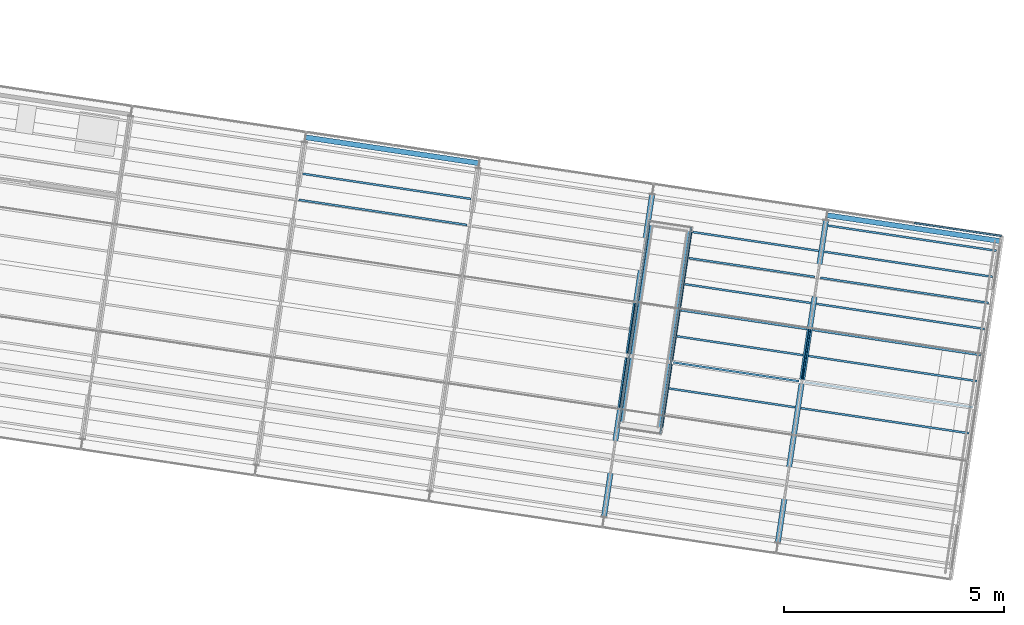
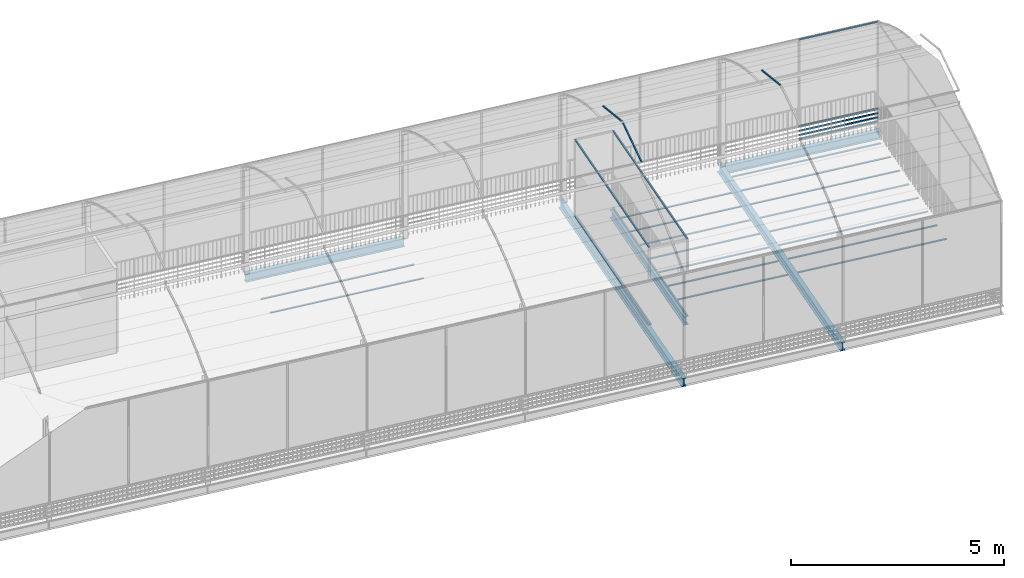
# One storey, part 13 of 34: 23 beams, 13 members, 1 element without a shape of its own.
"""IFC4 building model written with IfcOpenShell, lengths in metres."""

import ifcopenshell
import ifcopenshell.guid

model = None  # the IFC model being written
_history = None  # IfcOwnerHistory: only IFC2X3 demands one
_inside = {}  # id of a spatial element -> (the spatial element, [elements in it])
_under = {}  # id of a project, library or spatial element -> (it, [spatial elements below it])
_declared = {}  # id of a project -> (the project, [libraries it declares])
_typed = {}  # id of a type object -> (the type object, [elements of that type])
_made_of = {}  # id of a material, layer set ... -> (it, [elements and type objects made of it])


def new_model(schema):
    """Start an empty IFC model of exactly this schema.

    Asked for "IFC4X3", IfcOpenShell would pick the latest addendum, in which some entities
    have other attributes; the version numbers below select the first issue.
    IFC2X3 requires an IfcOwnerHistory on every rooted entity: one is made here for all.
    """
    global model, _history
    if schema == "IFC4X3":
        model = ifcopenshell.file(schema_version=(4, 3, 0, 0))
    else:
        model = ifcopenshell.file(schema=schema)
    _inside.clear()
    _under.clear()
    _declared.clear()
    _typed.clear()
    _made_of.clear()
    _history = None
    if model.schema == "IFC2X3":
        org = make("IfcOrganization", Name="unknown")
        user = make(
            "IfcPersonAndOrganization",
            ThePerson=make("IfcPerson", FamilyName="unknown"),
            TheOrganization=org,
        )
        app = make(
            "IfcApplication",
            ApplicationDeveloper=org,
            Version="unknown",
            ApplicationFullName="unknown",
            ApplicationIdentifier="unknown",
        )
        _history = make(
            "IfcOwnerHistory",
            OwningUser=user,
            OwningApplication=app,
            ChangeAction="ADDED",
            CreationDate=0,
        )
    return model


def make(cls, **values):
    """One entity of the class cls with the attributes given. An attribute that is None is left unset."""
    return model.create_entity(
        cls, **{name: value for name, value in values.items() if value is not None}
    )


def rooted(cls, **values):
    """An entity with a GlobalId (a new one), such as an element, a storey or a relation."""
    return make(cls, GlobalId=ifcopenshell.guid.new(), OwnerHistory=_history, **values)


def si_unit(unit_type, name, prefix=None):
    """IfcSIUnit, for example si_unit("LENGTHUNIT", "METRE", prefix="MILLI")."""
    return make("IfcSIUnit", UnitType=unit_type, Prefix=prefix, Name=name)


def assignment(units):
    """IfcUnitAssignment: the units of a project."""
    return None if units is None else make("IfcUnitAssignment", Units=units)


def point(xyz):
    """IfcCartesianPoint."""
    return None if xyz is None else make("IfcCartesianPoint", Coordinates=xyz)


def direction(xyz):
    """IfcDirection."""
    return None if xyz is None else make("IfcDirection", DirectionRatios=xyz)


def frame(location, z_axis=None, x_axis=None):
    """IfcAxis2Placement3D, a coordinate frame: its origin and axes. An axis left out is left unset."""
    return make(
        "IfcAxis2Placement3D",
        Location=point(location),
        Axis=direction(z_axis),
        RefDirection=direction(x_axis),
    )


def origin_with_axes():
    """The frame at (0, 0, 0) with the z axis (0, 0, 1) and the x axis (1, 0, 0) written out."""
    return frame((0.0, 0.0, 0.0), z_axis=(0.0, 0.0, 1.0), x_axis=(1.0, 0.0, 0.0))


def place(relative_to, where):
    """IfcLocalPlacement: puts the frame where relative to a parent placement (None: the world)."""
    return make(
        "IfcLocalPlacement", PlacementRelTo=relative_to, RelativePlacement=where
    )


def context(
    kind, dimensions, precision=None, world=None, true_north=None, identifier=None
):
    """IfcGeometricRepresentationContext, for example the 3D "Model" context."""
    return make(
        "IfcGeometricRepresentationContext",
        ContextIdentifier=identifier,
        ContextType=kind,
        CoordinateSpaceDimension=dimensions,
        Precision=precision,
        WorldCoordinateSystem=world,
        TrueNorth=true_north,
    )


def subcontext(parent, identifier, kind, view, scale=None):
    """IfcGeometricRepresentationSubContext, for example "Body" below "Model"."""
    return make(
        "IfcGeometricRepresentationSubContext",
        ContextIdentifier=identifier,
        ContextType=kind,
        ParentContext=parent,
        TargetScale=scale,
        TargetView=view,
    )


def project(units=None, contexts=None):
    """IfcProject with its units and contexts."""
    return rooted(
        "IfcProject",
        Name="project",
        RepresentationContexts=contexts,
        UnitsInContext=assignment(units),
    )


def spatial(cls, under=None, at=None, **own):
    """A site, building, storey or space (cls), placed at a placement, below another one or the project."""
    s = rooted(cls, ObjectPlacement=at, **own)
    if under is not None:
        _under.setdefault(under.id(), (under, []))[1].append(s)
    return s


def polyline(points):
    """IfcPolyline through the points."""
    return make("IfcPolyline", Points=[point(p) for p in points])


def profile(cls, at=None, kind="AREA", **sizes):
    """A parametric profile (cls). Its sizes go by their IFC names, for example OverallWidth=200.0."""
    return make(cls, ProfileType=kind, Position=at, **sizes)


def rectangle(**sizes):
    """IfcRectangleProfileDef."""
    return profile("IfcRectangleProfileDef", **sizes)


def i_section(**sizes):
    """IfcIShapeProfileDef."""
    return profile("IfcIShapeProfileDef", **sizes)


def outline(outer, holes=None, kind="AREA"):
    """IfcArbitraryClosedProfileDef: a profile drawn as a closed curve; with holes, ...WithVoids."""
    if holes is None:
        return make("IfcArbitraryClosedProfileDef", ProfileType=kind, OuterCurve=outer)
    return make(
        "IfcArbitraryProfileDefWithVoids",
        ProfileType=kind,
        OuterCurve=outer,
        InnerCurves=holes,
    )


def extrude(swept, where, along, depth):
    """IfcExtrudedAreaSolid: the profile swept, set in the frame where, extruded along a direction by depth."""
    return make(
        "IfcExtrudedAreaSolid",
        SweptArea=swept,
        Position=where,
        ExtrudedDirection=direction(along),
        Depth=depth,
    )


def shape(context_of_items, identifier, shape_type, items):
    """IfcShapeRepresentation: the items that make up one representation, for example the "Body"."""
    return make(
        "IfcShapeRepresentation",
        ContextOfItems=context_of_items,
        RepresentationIdentifier=identifier,
        RepresentationType=shape_type,
        Items=items,
    )


def material(Name=None, Category=None):
    """IfcMaterial."""
    return make("IfcMaterial", Name=Name, Category=Category)


def material_profile(
    of_material, cross_section, Name=None, Category=None, Priority=None
):
    """IfcMaterialProfile: a cross section and its material."""
    return make(
        "IfcMaterialProfile",
        Name=Name,
        Material=of_material,
        Profile=cross_section,
        Priority=Priority,
        Category=Category,
    )


def profile_set(profiles, Name=None, composite=None):
    """IfcMaterialProfileSet."""
    return make(
        "IfcMaterialProfileSet",
        Name=Name,
        MaterialProfiles=profiles,
        CompositeProfile=composite,
    )


def profile_usage(for_profile_set, cardinal=None, extent=None):
    """IfcMaterialProfileSetUsage: how a profile set lies along its element."""
    return make(
        "IfcMaterialProfileSetUsage",
        ForProfileSet=for_profile_set,
        CardinalPoint=cardinal,
        ReferenceExtent=extent,
    )


def made_of(thing, what):
    """Note that an element or type object is made of a material, layer set ...; save() writes the relation."""
    if what is not None:
        _made_of.setdefault(what.id(), (what, []))[1].append(thing)
    return thing


def type_object(cls, material=None, **own):
    """A type object (cls), such as IfcWallType, which elements share."""
    return made_of(rooted(cls, **own), material)


def element(
    cls,
    number,
    at=None,
    inside=None,
    cuts=None,
    type_object=None,
    material=None,
    context=None,
    identifier="Body",
    shape_type=None,
    held_by="IfcProductDefinitionShape",
    body=None,
    shapes=None,
    **own,
):
    """One element of the class cls, such as IfcWall. Its Tag is "e" and its number.

    at: its placement. inside: the storey or other place that contains it. cuts: it is an
    opening in that element (IfcRelVoidsElement). A single representation is given by context,
    identifier, shape_type and body (its items); several are given by shapes. held_by: the class
    of the entity that holds the representations. save() writes the other relations.
    """
    e = rooted(cls, Tag="e%d" % number, ObjectPlacement=at, **own)
    if body is not None:
        shapes = [shape(context, identifier, shape_type, body)]
    if shapes is not None:
        e.Representation = make(held_by, Representations=shapes)
    if inside is not None:
        _inside.setdefault(inside.id(), (inside, []))[1].append(e)
    if cuts is not None:
        rooted(
            "IfcRelVoidsElement", RelatingBuildingElement=cuts, RelatedOpeningElement=e
        )
    if type_object is not None:
        _typed.setdefault(type_object.id(), (type_object, []))[1].append(e)
    return made_of(e, material)


def aggregate(whole, parts):
    """IfcRelAggregates: a whole, such as a stair, and the parts it consists of."""
    return rooted("IfcRelAggregates", RelatingObject=whole, RelatedObjects=parts)


def save(model, path):
    """Write the relations noted so far, then the file.

    IfcRelAggregates (storeys below a building ...), IfcRelContainedInSpatialStructure (elements
    in a storey), IfcRelDefinesByType, IfcRelAssociatesMaterial and IfcRelDeclares: one each for
    every whole, place, type object, material and project.
    """
    for whole, parts in _under.values():
        aggregate(whole, parts)
    for where, things in _inside.values():
        rooted(
            "IfcRelContainedInSpatialStructure",
            RelatedElements=things,
            RelatingStructure=where,
        )
    for kind, things in _typed.values():
        rooted("IfcRelDefinesByType", RelatedObjects=things, RelatingType=kind)
    for what, things in _made_of.values():
        rooted("IfcRelAssociatesMaterial", RelatedObjects=things, RelatingMaterial=what)
    for by, libraries in _declared.values():
        rooted("IfcRelDeclares", RelatingContext=by, RelatedDefinitions=libraries)
    model.write(path)


model = new_model("IFC4")

# Units and contexts
model_context = context("Model", 3, precision=1e-05, world=origin_with_axes(), true_north=direction((0.0, 1.0)))
body_context = subcontext(model_context, "Body", "Model", "MODEL_VIEW")
ifc_project = project(units=[si_unit("VOLUMEUNIT", "CUBIC_METRE"), si_unit("LENGTHUNIT", "METRE"), si_unit("AREAUNIT", "SQUARE_METRE")], contexts=[model_context])

# Site, building, storey
site_placement = place(None, origin_with_axes())
site = spatial("IfcSite", under=ifc_project, at=site_placement, Name="Lares · Rua das Mercês · artigo 4771")
building_placement = place(site_placement, frame((15.0, 9.7, 15.8), z_axis=(0.0, 0.0, 1.0), x_axis=(0.989015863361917, -0.147809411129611, 0.0)))
building = spatial("IfcBuilding", under=site, at=building_placement, Name="Casa Sobreposta")
storey_placement = place(building_placement, frame((0.0, 0.0, 3.24), z_axis=(0.0, 0.0, 1.0), x_axis=(1.0, 0.0, 0.0)))
storey = spatial("IfcBuildingStorey", under=building, at=storey_placement, Name="01 · Jardim de inverno", Elevation=19.04)

# Beams
ifc_material_1 = material(Name="Aço pintado / Stahl lackiert", Category="steel")
ifc_material_profile_1 = material_profile(ifc_material_1, i_section(OverallWidth=0.12, OverallDepth=0.24, WebThickness=0.0062, FlangeThickness=0.0098))
ifc_profile_set_1 = profile_set([ifc_material_profile_1], Name="IPE240")
ifc_profile_usage_1 = profile_usage(ifc_profile_set_1)
beam_type = type_object("IfcBeamType", Name="IPE240 / steel", PredefinedType="NOTDEFINED", material=ifc_profile_set_1)
beam_1_placement = place(storey_placement, frame((16.0, 6.28, -0.152), z_axis=(1.0, 0.0, 0.0), x_axis=(0.0, -1.0, 0.0)))
element("IfcBeam", 1, at=beam_1_placement, inside=storey, type_object=beam_type, material=ifc_profile_usage_1, Name="Viga longitudinal 16 / 6.28", context=body_context, shape_type="SweptSolid", body=[
    extrude(i_section(OverallWidth=0.12, OverallDepth=0.24, WebThickness=0.0062, FlangeThickness=0.0098), origin_with_axes(), (0.0, 0.0, 1.0), 4.0),
])
ifc_profile_usage_2 = profile_usage(ifc_profile_set_1)
beam_2_placement = place(storey_placement, frame((28.0, 6.28, -0.152), z_axis=(1.0, 0.0, 0.0), x_axis=(0.0, -1.0, 0.0)))
element("IfcBeam", 2, at=beam_2_placement, inside=storey, type_object=beam_type, material=ifc_profile_usage_2, Name="Viga longitudinal 28 / 6.28", context=body_context, shape_type="SweptSolid", body=[
    extrude(i_section(OverallWidth=0.12, OverallDepth=0.24, WebThickness=0.0062, FlangeThickness=0.0098), origin_with_axes(), (0.0, 0.0, 1.0), 4.0),
])
ifc_profile_usage_3 = profile_usage(ifc_profile_set_1)
beam_3_placement = place(storey_placement, frame((24.0, -1.5, -0.152), z_axis=(0.0, 1.0, 0.0), x_axis=(1.0, 0.0, 0.0)))
element("IfcBeam", 3, at=beam_3_placement, inside=storey, type_object=beam_type, material=ifc_profile_usage_3, Name="Viga transversal eixo 24", context=body_context, shape_type="SweptSolid", body=[
    extrude(i_section(OverallWidth=0.12, OverallDepth=0.24, WebThickness=0.0062, FlangeThickness=0.0098), origin_with_axes(), (0.0, 0.0, 1.0), 7.9),
])
ifc_profile_usage_4 = profile_usage(ifc_profile_set_1)
beam_4_placement = place(storey_placement, frame((28.0, -1.5, -0.152), z_axis=(0.0, 1.0, 0.0), x_axis=(1.0, 0.0, 0.0)))
element("IfcBeam", 4, at=beam_4_placement, inside=storey, type_object=beam_type, material=ifc_profile_usage_4, Name="Viga transversal eixo 28", context=body_context, shape_type="SweptSolid", body=[
    extrude(i_section(OverallWidth=0.12, OverallDepth=0.24, WebThickness=0.0062, FlangeThickness=0.0098), origin_with_axes(), (0.0, 0.0, 1.0), 7.9),
])
ifc_profile_usage_5 = profile_usage(ifc_profile_set_1)
beam_5_placement = place(storey_placement, frame((24.05, 0.8275, -0.152), z_axis=(0.0, 1.0, 0.0), x_axis=(1.0, 0.0, 0.0)))
element("IfcBeam", 5, at=beam_5_placement, inside=storey, type_object=beam_type, material=ifc_profile_usage_5, Name="Longarina do vão 2", context=body_context, shape_type="SweptSolid", body=[
    extrude(i_section(OverallWidth=0.12, OverallDepth=0.24, WebThickness=0.0062, FlangeThickness=0.0098), origin_with_axes(), (0.0, 0.0, 1.0), 4.745),
])
ifc_profile_usage_6 = profile_usage(ifc_profile_set_1)
beam_6_placement = place(storey_placement, frame((24.97, 0.8275, -0.152), z_axis=(0.0, 1.0, 0.0), x_axis=(1.0, 0.0, 0.0)))
element("IfcBeam", 6, at=beam_6_placement, inside=storey, type_object=beam_type, material=ifc_profile_usage_6, Name="Longarina do vão 2", context=body_context, shape_type="SweptSolid", body=[
    extrude(i_section(OverallWidth=0.12, OverallDepth=0.24, WebThickness=0.0062, FlangeThickness=0.0098), origin_with_axes(), (0.0, 0.0, 1.0), 4.745),
])

# Members
ifc_material_profile_2 = material_profile(ifc_material_1, rectangle(XDim=0.035, YDim=0.035))
ifc_profile_set_2 = profile_set([ifc_material_profile_2], Name="R0.035")
ifc_profile_usage_7 = profile_usage(ifc_profile_set_2)
member_type = type_object("IfcMemberType", Name="R0.035 / steel", PredefinedType="NOTDEFINED", material=ifc_profile_set_2)
member_1_placement = place(storey_placement, frame((30.0, 6.4, 0.5), z_axis=(1.0, 0.0, 0.0), x_axis=(0.0, -1.0, 0.0)))
element("IfcMember", 7, at=member_1_placement, inside=storey, type_object=member_type, material=ifc_profile_usage_7, Name="Estufa norte 16 · travessa", context=body_context, shape_type="SweptSolid", body=[
    extrude(rectangle(XDim=0.035, YDim=0.035), origin_with_axes(), (0.0, 0.0, 1.0), 2.0),
])
ifc_profile_usage_8 = profile_usage(ifc_profile_set_2)
member_2_placement = place(storey_placement, frame((30.0, 6.4, 2.98), z_axis=(1.0, 0.0, 0.0), x_axis=(0.0, -1.0, 0.0)))
element("IfcMember", 8, at=member_2_placement, inside=storey, type_object=member_type, material=ifc_profile_usage_8, Name="Estufa norte 16 · travessa", context=body_context, shape_type="SweptSolid", body=[
    extrude(rectangle(XDim=0.035, YDim=0.035), origin_with_axes(), (0.0, 0.0, 1.0), 2.0),
])
ifc_profile_usage_9 = profile_usage(ifc_profile_set_2)
member_3_placement = place(storey_placement, frame((30.0, 6.4, 0.12), z_axis=(1.0, 0.0, 0.0), x_axis=(0.0, -1.0, 0.0)))
element("IfcMember", 9, at=member_3_placement, inside=storey, type_object=member_type, material=ifc_profile_usage_9, Name="Entrada de ar norte 16", context=body_context, shape_type="SweptSolid", body=[
    extrude(rectangle(XDim=0.035, YDim=0.035), origin_with_axes(), (0.0, 0.0, 1.0), 2.0),
])
ifc_profile_usage_10 = profile_usage(ifc_profile_set_2)
member_4_placement = place(storey_placement, frame((30.0, 6.4, 0.24), z_axis=(1.0, 0.0, 0.0), x_axis=(0.0, -1.0, 0.0)))
element("IfcMember", 10, at=member_4_placement, inside=storey, type_object=member_type, material=ifc_profile_usage_10, Name="Entrada de ar norte 16", context=body_context, shape_type="SweptSolid", body=[
    extrude(rectangle(XDim=0.035, YDim=0.035), origin_with_axes(), (0.0, 0.0, 1.0), 2.0),
])
ifc_profile_usage_11 = profile_usage(ifc_profile_set_2)
member_5_placement = place(storey_placement, frame((30.0, 6.4, 0.36), z_axis=(1.0, 0.0, 0.0), x_axis=(0.0, -1.0, 0.0)))
element("IfcMember", 11, at=member_5_placement, inside=storey, type_object=member_type, material=ifc_profile_usage_11, Name="Entrada de ar norte 16", context=body_context, shape_type="SweptSolid", body=[
    extrude(rectangle(XDim=0.035, YDim=0.035), origin_with_axes(), (0.0, 0.0, 1.0), 2.0),
])
ifc_profile_usage_12 = profile_usage(ifc_profile_set_2)
member_6_placement = place(storey_placement, frame((30.0, 6.4, 0.48), z_axis=(1.0, 0.0, 0.0), x_axis=(0.0, -1.0, 0.0)))
element("IfcMember", 12, at=member_6_placement, inside=storey, type_object=member_type, material=ifc_profile_usage_12, Name="Entrada de ar norte 16", context=body_context, shape_type="SweptSolid", body=[
    extrude(rectangle(XDim=0.035, YDim=0.035), origin_with_axes(), (0.0, 0.0, 1.0), 2.0),
])

# Roof, members
ifc_material_2 = material(Name="Vidro / Normalglas", Category="glass")
roof_placement = place(storey_placement, frame((0.0, 0.0, -3.24), z_axis=(0.0, 0.0, 1.0), x_axis=(1.0, 0.0, 0.0)))
roof = element("IfcRoof", 13, at=roof_placement, inside=storey, material=ifc_material_2, Name="Cobertura translúcida da estufa", PredefinedType="BARREL_ROOF")
ifc_profile_usage_13 = profile_usage(ifc_profile_set_2)
member_7_placement = place(roof_placement, frame((24.0, 1.22042020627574, 7.62067689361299), z_axis=(0.0, 0.960073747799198, 0.279747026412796), x_axis=(1.0, 0.0, 0.0)))
member_7 = element("IfcMember", 14, at=member_7_placement, type_object=member_type, material=ifc_profile_usage_13, Name="Arco estufa 24/7", context=body_context, shape_type="SweptSolid", body=[
    extrude(rectangle(XDim=0.035, YDim=0.035), origin_with_axes(), (0.0, 0.0, 1.0), 1.23148937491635),
])
ifc_profile_usage_14 = profile_usage(ifc_profile_set_2)
member_8_placement = place(roof_placement, frame((24.0, 2.49770027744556, 7.96518238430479), z_axis=(0.0, 0.96007374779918, -0.279747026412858), x_axis=(1.0, 0.0, 0.0)))
member_8 = element("IfcMember", 15, at=member_8_placement, type_object=member_type, material=ifc_profile_usage_14, Name="Arco estufa 24/9", context=body_context, shape_type="SweptSolid", body=[
    extrude(rectangle(XDim=0.035, YDim=0.035), origin_with_axes(), (0.0, 0.0, 1.0), 1.23148937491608),
])
ifc_profile_usage_15 = profile_usage(ifc_profile_set_2)
member_9_placement = place(roof_placement, frame((28.0, 2.49770027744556, 7.96518238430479), z_axis=(0.0, 0.96007374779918, -0.279747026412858), x_axis=(1.0, 0.0, 0.0)))
member_9 = element("IfcMember", 16, at=member_9_placement, type_object=member_type, material=ifc_profile_usage_15, Name="Arco estufa 28/9", context=body_context, shape_type="SweptSolid", body=[
    extrude(rectangle(XDim=0.035, YDim=0.035), origin_with_axes(), (0.0, 0.0, 1.0), 1.23148937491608),
])
aggregate(roof, [member_7, member_8, member_9])

# Members
ifc_profile_usage_16 = profile_usage(ifc_profile_set_2)
member_10_placement = place(storey_placement, frame((24.03, 0.8, 0.0), z_axis=(0.0, 1.0, 0.0), x_axis=(1.0, 0.0, 0.0)))
element("IfcMember", 17, at=member_10_placement, inside=storey, type_object=member_type, material=ifc_profile_usage_16, Name="Caixa térmica 2 · west · travessa", context=body_context, shape_type="SweptSolid", body=[
    extrude(rectangle(XDim=0.035, YDim=0.035), origin_with_axes(), (0.0, 0.0, 1.0), 4.75),
])
ifc_profile_usage_17 = profile_usage(ifc_profile_set_2)
member_11_placement = place(storey_placement, frame((24.03, 0.8, 2.2), z_axis=(0.0, 1.0, 0.0), x_axis=(1.0, 0.0, 0.0)))
element("IfcMember", 18, at=member_11_placement, inside=storey, type_object=member_type, material=ifc_profile_usage_17, Name="Caixa térmica 2 · west · travessa", context=body_context, shape_type="SweptSolid", body=[
    extrude(rectangle(XDim=0.035, YDim=0.035), origin_with_axes(), (0.0, 0.0, 1.0), 4.75),
])
ifc_profile_usage_18 = profile_usage(ifc_profile_set_2)
member_12_placement = place(storey_placement, frame((24.99, 0.8, 0.0), z_axis=(0.0, 1.0, 0.0), x_axis=(1.0, 0.0, 0.0)))
element("IfcMember", 19, at=member_12_placement, inside=storey, type_object=member_type, material=ifc_profile_usage_18, Name="Caixa térmica 2 · east · travessa", context=body_context, shape_type="SweptSolid", body=[
    extrude(rectangle(XDim=0.035, YDim=0.035), origin_with_axes(), (0.0, 0.0, 1.0), 4.75),
])
ifc_profile_usage_19 = profile_usage(ifc_profile_set_2)
member_13_placement = place(storey_placement, frame((24.99, 0.8, 2.2), z_axis=(0.0, 1.0, 0.0), x_axis=(1.0, 0.0, 0.0)))
element("IfcMember", 20, at=member_13_placement, inside=storey, type_object=member_type, material=ifc_profile_usage_19, Name="Caixa térmica 2 · east · travessa", context=body_context, shape_type="SweptSolid", body=[
    extrude(rectangle(XDim=0.035, YDim=0.035), origin_with_axes(), (0.0, 0.0, 1.0), 4.75),
])

# Beams
ifc_material_3 = material(Name="Madeira / Bauholz", Category="wood")
ifc_material_profile_3 = material_profile(ifc_material_3, outline(polyline([(0.022225, -0.12), (0.022225, -0.092), (-0.022225, -0.092), (-0.022225, -0.12), (0.022225, -0.12)])))
ifc_material_4 = material(Name="OSB", Category="wood")
ifc_material_profile_4 = material_profile(ifc_material_4, outline(polyline([(0.0047625, -0.092), (0.0047625, 0.092), (-0.0047625, 0.092), (-0.0047625, -0.092), (0.0047625, -0.092)])))
ifc_material_profile_5 = material_profile(ifc_material_3, outline(polyline([(0.022225, 0.092), (0.022225, 0.12), (-0.022225, 0.12), (-0.022225, 0.092), (0.022225, 0.092)])))
ifc_profile_set_3 = profile_set([ifc_material_profile_3, ifc_material_profile_4, ifc_material_profile_5], Name="TJI240 · madeira / OSB")
ifc_profile_usage_20 = profile_usage(ifc_profile_set_3)
beam_7_placement = place(storey_placement, frame((25.04, 1.85, -0.152), z_axis=(1.0, 0.0, 0.0), x_axis=(0.0, 1.0, 0.0)))
element("IfcBeam", 21, at=beam_7_placement, inside=storey, material=ifc_profile_usage_20, Name="TJI240 · 25.040 / 1.85", context=body_context, shape_type="SweptSolid", body=[
    extrude(outline(polyline([(0.022225, -0.12), (0.022225, -0.092), (-0.022225, -0.092), (-0.022225, -0.12), (0.022225, -0.12)])), origin_with_axes(), (0.0, 0.0, 1.0), 2.895),
    extrude(outline(polyline([(0.022225, -0.12), (0.022225, -0.092), (-0.022225, -0.092), (-0.022225, -0.12), (0.022225, -0.12)])), origin_with_axes(), (0.0, 0.0, 1.0), 2.895),
    extrude(outline(polyline([(0.022225, -0.12), (0.022225, -0.092), (-0.022225, -0.092), (-0.022225, -0.12), (0.022225, -0.12)])), origin_with_axes(), (0.0, 0.0, 1.0), 2.895),
])
ifc_material_profile_6 = material_profile(ifc_material_3, outline(polyline([(0.022225, -0.12), (0.022225, -0.092), (-0.022225, -0.092), (-0.022225, -0.12), (0.022225, -0.12)])))
ifc_material_profile_7 = material_profile(ifc_material_4, outline(polyline([(0.0047625, -0.092), (0.0047625, 0.092), (-0.0047625, 0.092), (-0.0047625, -0.092), (0.0047625, -0.092)])))
ifc_material_profile_8 = material_profile(ifc_material_3, outline(polyline([(0.022225, 0.092), (0.022225, 0.12), (-0.022225, 0.12), (-0.022225, 0.092), (0.022225, 0.092)])))
ifc_profile_set_4 = profile_set([ifc_material_profile_6, ifc_material_profile_7, ifc_material_profile_8], Name="TJI240 · madeira / OSB")
ifc_profile_usage_21 = profile_usage(ifc_profile_set_4)
beam_8_placement = place(storey_placement, frame((28.065, 1.85, -0.152), z_axis=(1.0, 0.0, 0.0), x_axis=(0.0, 1.0, 0.0)))
element("IfcBeam", 22, at=beam_8_placement, inside=storey, material=ifc_profile_usage_21, Name="TJI240 · 28.065 / 1.85", context=body_context, shape_type="SweptSolid", body=[
    extrude(outline(polyline([(0.022225, -0.12), (0.022225, -0.092), (-0.022225, -0.092), (-0.022225, -0.12), (0.022225, -0.12)])), origin_with_axes(), (0.0, 0.0, 1.0), 3.87),
    extrude(outline(polyline([(0.022225, -0.12), (0.022225, -0.092), (-0.022225, -0.092), (-0.022225, -0.12), (0.022225, -0.12)])), origin_with_axes(), (0.0, 0.0, 1.0), 3.87),
    extrude(outline(polyline([(0.022225, -0.12), (0.022225, -0.092), (-0.022225, -0.092), (-0.022225, -0.12), (0.022225, -0.12)])), origin_with_axes(), (0.0, 0.0, 1.0), 3.87),
])
ifc_material_profile_9 = material_profile(ifc_material_3, outline(polyline([(0.022225, -0.12), (0.022225, -0.092), (-0.022225, -0.092), (-0.022225, -0.12), (0.022225, -0.12)])))
ifc_material_profile_10 = material_profile(ifc_material_4, outline(polyline([(0.0047625, -0.092), (0.0047625, 0.092), (-0.0047625, 0.092), (-0.0047625, -0.092), (0.0047625, -0.092)])))
ifc_material_profile_11 = material_profile(ifc_material_3, outline(polyline([(0.022225, 0.092), (0.022225, 0.12), (-0.022225, 0.12), (-0.022225, 0.092), (0.022225, 0.092)])))
ifc_profile_set_5 = profile_set([ifc_material_profile_9, ifc_material_profile_10, ifc_material_profile_11], Name="TJI240 · madeira / OSB")
ifc_profile_usage_22 = profile_usage(ifc_profile_set_5)
beam_9_placement = place(storey_placement, frame((25.04, 2.45, -0.152), z_axis=(1.0, 0.0, 0.0), x_axis=(0.0, 1.0, 0.0)))
element("IfcBeam", 23, at=beam_9_placement, inside=storey, material=ifc_profile_usage_22, Name="TJI240 · 25.040 / 2.45", context=body_context, shape_type="SweptSolid", body=[
    extrude(outline(polyline([(0.022225, -0.12), (0.022225, -0.092), (-0.022225, -0.092), (-0.022225, -0.12), (0.022225, -0.12)])), origin_with_axes(), (0.0, 0.0, 1.0), 2.895),
    extrude(outline(polyline([(0.022225, -0.12), (0.022225, -0.092), (-0.022225, -0.092), (-0.022225, -0.12), (0.022225, -0.12)])), origin_with_axes(), (0.0, 0.0, 1.0), 2.895),
    extrude(outline(polyline([(0.022225, -0.12), (0.022225, -0.092), (-0.022225, -0.092), (-0.022225, -0.12), (0.022225, -0.12)])), origin_with_axes(), (0.0, 0.0, 1.0), 2.895),
])
ifc_material_profile_12 = material_profile(ifc_material_3, outline(polyline([(0.022225, -0.12), (0.022225, -0.092), (-0.022225, -0.092), (-0.022225, -0.12), (0.022225, -0.12)])))
ifc_material_profile_13 = material_profile(ifc_material_4, outline(polyline([(0.0047625, -0.092), (0.0047625, 0.092), (-0.0047625, 0.092), (-0.0047625, -0.092), (0.0047625, -0.092)])))
ifc_material_profile_14 = material_profile(ifc_material_3, outline(polyline([(0.022225, 0.092), (0.022225, 0.12), (-0.022225, 0.12), (-0.022225, 0.092), (0.022225, 0.092)])))
ifc_profile_set_6 = profile_set([ifc_material_profile_12, ifc_material_profile_13, ifc_material_profile_14], Name="TJI240 · madeira / OSB")
ifc_profile_usage_23 = profile_usage(ifc_profile_set_6)
beam_10_placement = place(storey_placement, frame((28.065, 2.45, -0.152), z_axis=(1.0, 0.0, 0.0), x_axis=(0.0, 1.0, 0.0)))
element("IfcBeam", 24, at=beam_10_placement, inside=storey, material=ifc_profile_usage_23, Name="TJI240 · 28.065 / 2.45", context=body_context, shape_type="SweptSolid", body=[
    extrude(outline(polyline([(0.022225, -0.12), (0.022225, -0.092), (-0.022225, -0.092), (-0.022225, -0.12), (0.022225, -0.12)])), origin_with_axes(), (0.0, 0.0, 1.0), 3.87),
    extrude(outline(polyline([(0.022225, -0.12), (0.022225, -0.092), (-0.022225, -0.092), (-0.022225, -0.12), (0.022225, -0.12)])), origin_with_axes(), (0.0, 0.0, 1.0), 3.87),
    extrude(outline(polyline([(0.022225, -0.12), (0.022225, -0.092), (-0.022225, -0.092), (-0.022225, -0.12), (0.022225, -0.12)])), origin_with_axes(), (0.0, 0.0, 1.0), 3.87),
])
ifc_material_profile_15 = material_profile(ifc_material_3, outline(polyline([(0.022225, -0.12), (0.022225, -0.092), (-0.022225, -0.092), (-0.022225, -0.12), (0.022225, -0.12)])))
ifc_material_profile_16 = material_profile(ifc_material_4, outline(polyline([(0.0047625, -0.092), (0.0047625, 0.092), (-0.0047625, 0.092), (-0.0047625, -0.092), (0.0047625, -0.092)])))
ifc_material_profile_17 = material_profile(ifc_material_3, outline(polyline([(0.022225, 0.092), (0.022225, 0.12), (-0.022225, 0.12), (-0.022225, 0.092), (0.022225, 0.092)])))
ifc_profile_set_7 = profile_set([ifc_material_profile_15, ifc_material_profile_16, ifc_material_profile_17], Name="TJI240 · madeira / OSB")
ifc_profile_usage_24 = profile_usage(ifc_profile_set_7)
beam_11_placement = place(storey_placement, frame((25.04, 3.05, -0.152), z_axis=(1.0, 0.0, 0.0), x_axis=(0.0, 1.0, 0.0)))
element("IfcBeam", 25, at=beam_11_placement, inside=storey, material=ifc_profile_usage_24, Name="TJI240 · 25.040 / 3.05", context=body_context, shape_type="SweptSolid", body=[
    extrude(outline(polyline([(0.022225, -0.12), (0.022225, -0.092), (-0.022225, -0.092), (-0.022225, -0.12), (0.022225, -0.12)])), origin_with_axes(), (0.0, 0.0, 1.0), 2.895),
    extrude(outline(polyline([(0.022225, -0.12), (0.022225, -0.092), (-0.022225, -0.092), (-0.022225, -0.12), (0.022225, -0.12)])), origin_with_axes(), (0.0, 0.0, 1.0), 2.895),
    extrude(outline(polyline([(0.022225, -0.12), (0.022225, -0.092), (-0.022225, -0.092), (-0.022225, -0.12), (0.022225, -0.12)])), origin_with_axes(), (0.0, 0.0, 1.0), 2.895),
])
ifc_material_profile_18 = material_profile(ifc_material_3, outline(polyline([(0.022225, -0.12), (0.022225, -0.092), (-0.022225, -0.092), (-0.022225, -0.12), (0.022225, -0.12)])))
ifc_material_profile_19 = material_profile(ifc_material_4, outline(polyline([(0.0047625, -0.092), (0.0047625, 0.092), (-0.0047625, 0.092), (-0.0047625, -0.092), (0.0047625, -0.092)])))
ifc_material_profile_20 = material_profile(ifc_material_3, outline(polyline([(0.022225, 0.092), (0.022225, 0.12), (-0.022225, 0.12), (-0.022225, 0.092), (0.022225, 0.092)])))
ifc_profile_set_8 = profile_set([ifc_material_profile_18, ifc_material_profile_19, ifc_material_profile_20], Name="TJI240 · madeira / OSB")
ifc_profile_usage_25 = profile_usage(ifc_profile_set_8)
beam_12_placement = place(storey_placement, frame((28.065, 3.05, -0.152), z_axis=(1.0, 0.0, 0.0), x_axis=(0.0, 1.0, 0.0)))
element("IfcBeam", 26, at=beam_12_placement, inside=storey, material=ifc_profile_usage_25, Name="TJI240 · 28.065 / 3.05", context=body_context, shape_type="SweptSolid", body=[
    extrude(outline(polyline([(0.022225, -0.12), (0.022225, -0.092), (-0.022225, -0.092), (-0.022225, -0.12), (0.022225, -0.12)])), origin_with_axes(), (0.0, 0.0, 1.0), 3.87),
    extrude(outline(polyline([(0.022225, -0.12), (0.022225, -0.092), (-0.022225, -0.092), (-0.022225, -0.12), (0.022225, -0.12)])), origin_with_axes(), (0.0, 0.0, 1.0), 3.87),
    extrude(outline(polyline([(0.022225, -0.12), (0.022225, -0.092), (-0.022225, -0.092), (-0.022225, -0.12), (0.022225, -0.12)])), origin_with_axes(), (0.0, 0.0, 1.0), 3.87),
])
ifc_material_profile_21 = material_profile(ifc_material_3, outline(polyline([(0.022225, -0.12), (0.022225, -0.092), (-0.022225, -0.092), (-0.022225, -0.12), (0.022225, -0.12)])))
ifc_material_profile_22 = material_profile(ifc_material_4, outline(polyline([(0.0047625, -0.092), (0.0047625, 0.092), (-0.0047625, 0.092), (-0.0047625, -0.092), (0.0047625, -0.092)])))
ifc_material_profile_23 = material_profile(ifc_material_3, outline(polyline([(0.022225, 0.092), (0.022225, 0.12), (-0.022225, 0.12), (-0.022225, 0.092), (0.022225, 0.092)])))
ifc_profile_set_9 = profile_set([ifc_material_profile_21, ifc_material_profile_22, ifc_material_profile_23], Name="TJI240 · madeira / OSB")
ifc_profile_usage_26 = profile_usage(ifc_profile_set_9)
beam_13_placement = place(storey_placement, frame((25.04, 3.65, -0.152), z_axis=(1.0, 0.0, 0.0), x_axis=(0.0, 1.0, 0.0)))
element("IfcBeam", 27, at=beam_13_placement, inside=storey, material=ifc_profile_usage_26, Name="TJI240 · 25.040 / 3.65", context=body_context, shape_type="SweptSolid", body=[
    extrude(outline(polyline([(0.022225, -0.12), (0.022225, -0.092), (-0.022225, -0.092), (-0.022225, -0.12), (0.022225, -0.12)])), origin_with_axes(), (0.0, 0.0, 1.0), 2.895),
    extrude(outline(polyline([(0.022225, -0.12), (0.022225, -0.092), (-0.022225, -0.092), (-0.022225, -0.12), (0.022225, -0.12)])), origin_with_axes(), (0.0, 0.0, 1.0), 2.895),
    extrude(outline(polyline([(0.022225, -0.12), (0.022225, -0.092), (-0.022225, -0.092), (-0.022225, -0.12), (0.022225, -0.12)])), origin_with_axes(), (0.0, 0.0, 1.0), 2.895),
])
ifc_material_profile_24 = material_profile(ifc_material_3, outline(polyline([(0.022225, -0.12), (0.022225, -0.092), (-0.022225, -0.092), (-0.022225, -0.12), (0.022225, -0.12)])))
ifc_material_profile_25 = material_profile(ifc_material_4, outline(polyline([(0.0047625, -0.092), (0.0047625, 0.092), (-0.0047625, 0.092), (-0.0047625, -0.092), (0.0047625, -0.092)])))
ifc_material_profile_26 = material_profile(ifc_material_3, outline(polyline([(0.022225, 0.092), (0.022225, 0.12), (-0.022225, 0.12), (-0.022225, 0.092), (0.022225, 0.092)])))
ifc_profile_set_10 = profile_set([ifc_material_profile_24, ifc_material_profile_25, ifc_material_profile_26], Name="TJI240 · madeira / OSB")
ifc_profile_usage_27 = profile_usage(ifc_profile_set_10)
beam_14_placement = place(storey_placement, frame((28.065, 3.65, -0.152), z_axis=(1.0, 0.0, 0.0), x_axis=(0.0, 1.0, 0.0)))
element("IfcBeam", 28, at=beam_14_placement, inside=storey, material=ifc_profile_usage_27, Name="TJI240 · 28.065 / 3.65", context=body_context, shape_type="SweptSolid", body=[
    extrude(outline(polyline([(0.022225, -0.12), (0.022225, -0.092), (-0.022225, -0.092), (-0.022225, -0.12), (0.022225, -0.12)])), origin_with_axes(), (0.0, 0.0, 1.0), 3.87),
    extrude(outline(polyline([(0.022225, -0.12), (0.022225, -0.092), (-0.022225, -0.092), (-0.022225, -0.12), (0.022225, -0.12)])), origin_with_axes(), (0.0, 0.0, 1.0), 3.87),
    extrude(outline(polyline([(0.022225, -0.12), (0.022225, -0.092), (-0.022225, -0.092), (-0.022225, -0.12), (0.022225, -0.12)])), origin_with_axes(), (0.0, 0.0, 1.0), 3.87),
])
ifc_material_profile_27 = material_profile(ifc_material_3, outline(polyline([(0.022225, -0.12), (0.022225, -0.092), (-0.022225, -0.092), (-0.022225, -0.12), (0.022225, -0.12)])))
ifc_material_profile_28 = material_profile(ifc_material_4, outline(polyline([(0.0047625, -0.092), (0.0047625, 0.092), (-0.0047625, 0.092), (-0.0047625, -0.092), (0.0047625, -0.092)])))
ifc_material_profile_29 = material_profile(ifc_material_3, outline(polyline([(0.022225, 0.092), (0.022225, 0.12), (-0.022225, 0.12), (-0.022225, 0.092), (0.022225, 0.092)])))
ifc_profile_set_11 = profile_set([ifc_material_profile_27, ifc_material_profile_28, ifc_material_profile_29], Name="TJI240 · madeira / OSB")
ifc_profile_usage_28 = profile_usage(ifc_profile_set_11)
beam_15_placement = place(storey_placement, frame((25.04, 4.25, -0.152), z_axis=(1.0, 0.0, 0.0), x_axis=(0.0, 1.0, 0.0)))
element("IfcBeam", 29, at=beam_15_placement, inside=storey, material=ifc_profile_usage_28, Name="TJI240 · 25.040 / 4.25", context=body_context, shape_type="SweptSolid", body=[
    extrude(outline(polyline([(0.022225, -0.12), (0.022225, -0.092), (-0.022225, -0.092), (-0.022225, -0.12), (0.022225, -0.12)])), origin_with_axes(), (0.0, 0.0, 1.0), 2.895),
    extrude(outline(polyline([(0.022225, -0.12), (0.022225, -0.092), (-0.022225, -0.092), (-0.022225, -0.12), (0.022225, -0.12)])), origin_with_axes(), (0.0, 0.0, 1.0), 2.895),
    extrude(outline(polyline([(0.022225, -0.12), (0.022225, -0.092), (-0.022225, -0.092), (-0.022225, -0.12), (0.022225, -0.12)])), origin_with_axes(), (0.0, 0.0, 1.0), 2.895),
])
ifc_material_profile_30 = material_profile(ifc_material_3, outline(polyline([(0.022225, -0.12), (0.022225, -0.092), (-0.022225, -0.092), (-0.022225, -0.12), (0.022225, -0.12)])))
ifc_material_profile_31 = material_profile(ifc_material_4, outline(polyline([(0.0047625, -0.092), (0.0047625, 0.092), (-0.0047625, 0.092), (-0.0047625, -0.092), (0.0047625, -0.092)])))
ifc_material_profile_32 = material_profile(ifc_material_3, outline(polyline([(0.022225, 0.092), (0.022225, 0.12), (-0.022225, 0.12), (-0.022225, 0.092), (0.022225, 0.092)])))
ifc_profile_set_12 = profile_set([ifc_material_profile_30, ifc_material_profile_31, ifc_material_profile_32], Name="TJI240 · madeira / OSB")
ifc_profile_usage_29 = profile_usage(ifc_profile_set_12)
beam_16_placement = place(storey_placement, frame((28.065, 4.25, -0.152), z_axis=(1.0, 0.0, 0.0), x_axis=(0.0, 1.0, 0.0)))
element("IfcBeam", 30, at=beam_16_placement, inside=storey, material=ifc_profile_usage_29, Name="TJI240 · 28.065 / 4.25", context=body_context, shape_type="SweptSolid", body=[
    extrude(outline(polyline([(0.022225, -0.12), (0.022225, -0.092), (-0.022225, -0.092), (-0.022225, -0.12), (0.022225, -0.12)])), origin_with_axes(), (0.0, 0.0, 1.0), 3.87),
    extrude(outline(polyline([(0.022225, -0.12), (0.022225, -0.092), (-0.022225, -0.092), (-0.022225, -0.12), (0.022225, -0.12)])), origin_with_axes(), (0.0, 0.0, 1.0), 3.87),
    extrude(outline(polyline([(0.022225, -0.12), (0.022225, -0.092), (-0.022225, -0.092), (-0.022225, -0.12), (0.022225, -0.12)])), origin_with_axes(), (0.0, 0.0, 1.0), 3.87),
])
ifc_material_profile_33 = material_profile(ifc_material_3, outline(polyline([(0.022225, -0.12), (0.022225, -0.092), (-0.022225, -0.092), (-0.022225, -0.12), (0.022225, -0.12)])))
ifc_material_profile_34 = material_profile(ifc_material_4, outline(polyline([(0.0047625, -0.092), (0.0047625, 0.092), (-0.0047625, 0.092), (-0.0047625, -0.092), (0.0047625, -0.092)])))
ifc_material_profile_35 = material_profile(ifc_material_3, outline(polyline([(0.022225, 0.092), (0.022225, 0.12), (-0.022225, 0.12), (-0.022225, 0.092), (0.022225, 0.092)])))
ifc_profile_set_13 = profile_set([ifc_material_profile_33, ifc_material_profile_34, ifc_material_profile_35], Name="TJI240 · madeira / OSB")
ifc_profile_usage_30 = profile_usage(ifc_profile_set_13)
beam_17_placement = place(storey_placement, frame((16.065, 4.85, -0.152), z_axis=(1.0, 0.0, 0.0), x_axis=(0.0, 1.0, 0.0)))
element("IfcBeam", 31, at=beam_17_placement, inside=storey, material=ifc_profile_usage_30, Name="TJI240 · 16.065 / 4.85", context=body_context, shape_type="SweptSolid", body=[
    extrude(outline(polyline([(0.022225, -0.12), (0.022225, -0.092), (-0.022225, -0.092), (-0.022225, -0.12), (0.022225, -0.12)])), origin_with_axes(), (0.0, 0.0, 1.0), 3.87),
    extrude(outline(polyline([(0.022225, -0.12), (0.022225, -0.092), (-0.022225, -0.092), (-0.022225, -0.12), (0.022225, -0.12)])), origin_with_axes(), (0.0, 0.0, 1.0), 3.87),
    extrude(outline(polyline([(0.022225, -0.12), (0.022225, -0.092), (-0.022225, -0.092), (-0.022225, -0.12), (0.022225, -0.12)])), origin_with_axes(), (0.0, 0.0, 1.0), 3.87),
])
ifc_material_profile_36 = material_profile(ifc_material_3, outline(polyline([(0.022225, -0.12), (0.022225, -0.092), (-0.022225, -0.092), (-0.022225, -0.12), (0.022225, -0.12)])))
ifc_material_profile_37 = material_profile(ifc_material_4, outline(polyline([(0.0047625, -0.092), (0.0047625, 0.092), (-0.0047625, 0.092), (-0.0047625, -0.092), (0.0047625, -0.092)])))
ifc_material_profile_38 = material_profile(ifc_material_3, outline(polyline([(0.022225, 0.092), (0.022225, 0.12), (-0.022225, 0.12), (-0.022225, 0.092), (0.022225, 0.092)])))
ifc_profile_set_14 = profile_set([ifc_material_profile_36, ifc_material_profile_37, ifc_material_profile_38], Name="TJI240 · madeira / OSB")
ifc_profile_usage_31 = profile_usage(ifc_profile_set_14)
beam_18_placement = place(storey_placement, frame((25.04, 4.85, -0.152), z_axis=(1.0, 0.0, 0.0), x_axis=(0.0, 1.0, 0.0)))
element("IfcBeam", 32, at=beam_18_placement, inside=storey, material=ifc_profile_usage_31, Name="TJI240 · 25.040 / 4.85", context=body_context, shape_type="SweptSolid", body=[
    extrude(outline(polyline([(0.022225, -0.12), (0.022225, -0.092), (-0.022225, -0.092), (-0.022225, -0.12), (0.022225, -0.12)])), origin_with_axes(), (0.0, 0.0, 1.0), 2.895),
    extrude(outline(polyline([(0.022225, -0.12), (0.022225, -0.092), (-0.022225, -0.092), (-0.022225, -0.12), (0.022225, -0.12)])), origin_with_axes(), (0.0, 0.0, 1.0), 2.895),
    extrude(outline(polyline([(0.022225, -0.12), (0.022225, -0.092), (-0.022225, -0.092), (-0.022225, -0.12), (0.022225, -0.12)])), origin_with_axes(), (0.0, 0.0, 1.0), 2.895),
])
ifc_material_profile_39 = material_profile(ifc_material_3, outline(polyline([(0.022225, -0.12), (0.022225, -0.092), (-0.022225, -0.092), (-0.022225, -0.12), (0.022225, -0.12)])))
ifc_material_profile_40 = material_profile(ifc_material_4, outline(polyline([(0.0047625, -0.092), (0.0047625, 0.092), (-0.0047625, 0.092), (-0.0047625, -0.092), (0.0047625, -0.092)])))
ifc_material_profile_41 = material_profile(ifc_material_3, outline(polyline([(0.022225, 0.092), (0.022225, 0.12), (-0.022225, 0.12), (-0.022225, 0.092), (0.022225, 0.092)])))
ifc_profile_set_15 = profile_set([ifc_material_profile_39, ifc_material_profile_40, ifc_material_profile_41], Name="TJI240 · madeira / OSB")
ifc_profile_usage_32 = profile_usage(ifc_profile_set_15)
beam_19_placement = place(storey_placement, frame((28.065, 4.85, -0.152), z_axis=(1.0, 0.0, 0.0), x_axis=(0.0, 1.0, 0.0)))
element("IfcBeam", 33, at=beam_19_placement, inside=storey, material=ifc_profile_usage_32, Name="TJI240 · 28.065 / 4.85", context=body_context, shape_type="SweptSolid", body=[
    extrude(outline(polyline([(0.022225, -0.12), (0.022225, -0.092), (-0.022225, -0.092), (-0.022225, -0.12), (0.022225, -0.12)])), origin_with_axes(), (0.0, 0.0, 1.0), 3.87),
    extrude(outline(polyline([(0.022225, -0.12), (0.022225, -0.092), (-0.022225, -0.092), (-0.022225, -0.12), (0.022225, -0.12)])), origin_with_axes(), (0.0, 0.0, 1.0), 3.87),
    extrude(outline(polyline([(0.022225, -0.12), (0.022225, -0.092), (-0.022225, -0.092), (-0.022225, -0.12), (0.022225, -0.12)])), origin_with_axes(), (0.0, 0.0, 1.0), 3.87),
])
ifc_material_profile_42 = material_profile(ifc_material_3, outline(polyline([(0.022225, -0.12), (0.022225, -0.092), (-0.022225, -0.092), (-0.022225, -0.12), (0.022225, -0.12)])))
ifc_material_profile_43 = material_profile(ifc_material_4, outline(polyline([(0.0047625, -0.092), (0.0047625, 0.092), (-0.0047625, 0.092), (-0.0047625, -0.092), (0.0047625, -0.092)])))
ifc_material_profile_44 = material_profile(ifc_material_3, outline(polyline([(0.022225, 0.092), (0.022225, 0.12), (-0.022225, 0.12), (-0.022225, 0.092), (0.022225, 0.092)])))
ifc_profile_set_16 = profile_set([ifc_material_profile_42, ifc_material_profile_43, ifc_material_profile_44], Name="TJI240 · madeira / OSB")
ifc_profile_usage_33 = profile_usage(ifc_profile_set_16)
beam_20_placement = place(storey_placement, frame((16.065, 5.45, -0.152), z_axis=(1.0, 0.0, 0.0), x_axis=(0.0, 1.0, 0.0)))
element("IfcBeam", 34, at=beam_20_placement, inside=storey, material=ifc_profile_usage_33, Name="TJI240 · 16.065 / 5.45", context=body_context, shape_type="SweptSolid", body=[
    extrude(outline(polyline([(0.022225, -0.12), (0.022225, -0.092), (-0.022225, -0.092), (-0.022225, -0.12), (0.022225, -0.12)])), origin_with_axes(), (0.0, 0.0, 1.0), 3.87),
    extrude(outline(polyline([(0.022225, -0.12), (0.022225, -0.092), (-0.022225, -0.092), (-0.022225, -0.12), (0.022225, -0.12)])), origin_with_axes(), (0.0, 0.0, 1.0), 3.87),
    extrude(outline(polyline([(0.022225, -0.12), (0.022225, -0.092), (-0.022225, -0.092), (-0.022225, -0.12), (0.022225, -0.12)])), origin_with_axes(), (0.0, 0.0, 1.0), 3.87),
])
ifc_material_profile_45 = material_profile(ifc_material_3, outline(polyline([(0.022225, -0.12), (0.022225, -0.092), (-0.022225, -0.092), (-0.022225, -0.12), (0.022225, -0.12)])))
ifc_material_profile_46 = material_profile(ifc_material_4, outline(polyline([(0.0047625, -0.092), (0.0047625, 0.092), (-0.0047625, 0.092), (-0.0047625, -0.092), (0.0047625, -0.092)])))
ifc_material_profile_47 = material_profile(ifc_material_3, outline(polyline([(0.022225, 0.092), (0.022225, 0.12), (-0.022225, 0.12), (-0.022225, 0.092), (0.022225, 0.092)])))
ifc_profile_set_17 = profile_set([ifc_material_profile_45, ifc_material_profile_46, ifc_material_profile_47], Name="TJI240 · madeira / OSB")
ifc_profile_usage_34 = profile_usage(ifc_profile_set_17)
beam_21_placement = place(storey_placement, frame((25.04, 5.45, -0.152), z_axis=(1.0, 0.0, 0.0), x_axis=(0.0, 1.0, 0.0)))
element("IfcBeam", 35, at=beam_21_placement, inside=storey, material=ifc_profile_usage_34, Name="TJI240 · 25.040 / 5.45", context=body_context, shape_type="SweptSolid", body=[
    extrude(outline(polyline([(0.022225, -0.12), (0.022225, -0.092), (-0.022225, -0.092), (-0.022225, -0.12), (0.022225, -0.12)])), origin_with_axes(), (0.0, 0.0, 1.0), 2.895),
    extrude(outline(polyline([(0.022225, -0.12), (0.022225, -0.092), (-0.022225, -0.092), (-0.022225, -0.12), (0.022225, -0.12)])), origin_with_axes(), (0.0, 0.0, 1.0), 2.895),
    extrude(outline(polyline([(0.022225, -0.12), (0.022225, -0.092), (-0.022225, -0.092), (-0.022225, -0.12), (0.022225, -0.12)])), origin_with_axes(), (0.0, 0.0, 1.0), 2.895),
])
ifc_material_profile_48 = material_profile(ifc_material_3, outline(polyline([(0.022225, -0.12), (0.022225, -0.092), (-0.022225, -0.092), (-0.022225, -0.12), (0.022225, -0.12)])))
ifc_material_profile_49 = material_profile(ifc_material_4, outline(polyline([(0.0047625, -0.092), (0.0047625, 0.092), (-0.0047625, 0.092), (-0.0047625, -0.092), (0.0047625, -0.092)])))
ifc_material_profile_50 = material_profile(ifc_material_3, outline(polyline([(0.022225, 0.092), (0.022225, 0.12), (-0.022225, 0.12), (-0.022225, 0.092), (0.022225, 0.092)])))
ifc_profile_set_18 = profile_set([ifc_material_profile_48, ifc_material_profile_49, ifc_material_profile_50], Name="TJI240 · madeira / OSB")
ifc_profile_usage_35 = profile_usage(ifc_profile_set_18)
beam_22_placement = place(storey_placement, frame((28.065, 5.45, -0.152), z_axis=(1.0, 0.0, 0.0), x_axis=(0.0, 1.0, 0.0)))
element("IfcBeam", 36, at=beam_22_placement, inside=storey, material=ifc_profile_usage_35, Name="TJI240 · 28.065 / 5.45", context=body_context, shape_type="SweptSolid", body=[
    extrude(outline(polyline([(0.022225, -0.12), (0.022225, -0.092), (-0.022225, -0.092), (-0.022225, -0.12), (0.022225, -0.12)])), origin_with_axes(), (0.0, 0.0, 1.0), 3.87),
    extrude(outline(polyline([(0.022225, -0.12), (0.022225, -0.092), (-0.022225, -0.092), (-0.022225, -0.12), (0.022225, -0.12)])), origin_with_axes(), (0.0, 0.0, 1.0), 3.87),
    extrude(outline(polyline([(0.022225, -0.12), (0.022225, -0.092), (-0.022225, -0.092), (-0.022225, -0.12), (0.022225, -0.12)])), origin_with_axes(), (0.0, 0.0, 1.0), 3.87),
])
ifc_material_profile_51 = material_profile(ifc_material_3, outline(polyline([(0.022225, -0.12), (0.022225, -0.092), (-0.022225, -0.092), (-0.022225, -0.12), (0.022225, -0.12)])))
ifc_material_profile_52 = material_profile(ifc_material_4, outline(polyline([(0.0047625, -0.092), (0.0047625, 0.092), (-0.0047625, 0.092), (-0.0047625, -0.092), (0.0047625, -0.092)])))
ifc_material_profile_53 = material_profile(ifc_material_3, outline(polyline([(0.022225, 0.092), (0.022225, 0.12), (-0.022225, 0.12), (-0.022225, 0.092), (0.022225, 0.092)])))
ifc_profile_set_19 = profile_set([ifc_material_profile_51, ifc_material_profile_52, ifc_material_profile_53], Name="TJI240 · madeira / OSB")
ifc_profile_usage_36 = profile_usage(ifc_profile_set_19)
beam_23_placement = place(storey_placement, frame((28.065, 6.05, -0.152), z_axis=(1.0, 0.0, 0.0), x_axis=(0.0, 1.0, 0.0)))
element("IfcBeam", 37, at=beam_23_placement, inside=storey, material=ifc_profile_usage_36, Name="TJI240 · 28.065 / 6.05", context=body_context, shape_type="SweptSolid", body=[
    extrude(outline(polyline([(0.022225, -0.12), (0.022225, -0.092), (-0.022225, -0.092), (-0.022225, -0.12), (0.022225, -0.12)])), origin_with_axes(), (0.0, 0.0, 1.0), 3.87),
    extrude(outline(polyline([(0.022225, -0.12), (0.022225, -0.092), (-0.022225, -0.092), (-0.022225, -0.12), (0.022225, -0.12)])), origin_with_axes(), (0.0, 0.0, 1.0), 3.87),
    extrude(outline(polyline([(0.022225, -0.12), (0.022225, -0.092), (-0.022225, -0.092), (-0.022225, -0.12), (0.022225, -0.12)])), origin_with_axes(), (0.0, 0.0, 1.0), 3.87),
])

save(model, "model.ifc")
